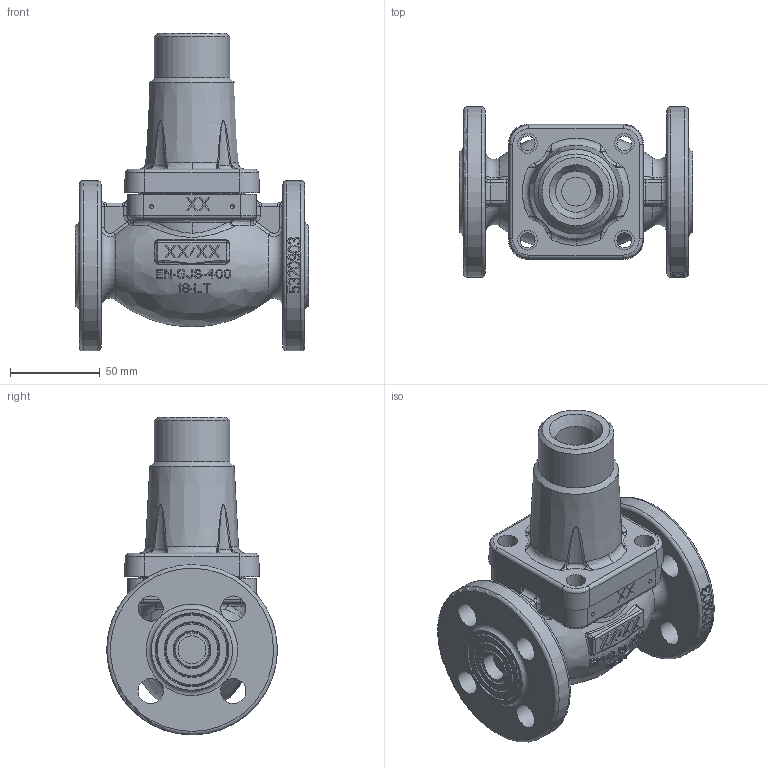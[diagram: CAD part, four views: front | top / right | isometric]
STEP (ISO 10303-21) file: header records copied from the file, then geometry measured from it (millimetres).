
FILE_DESCRIPTION(('TFLEX Exchange Step'),'2;1');
FILE_NAME('VFG-2R DN 15.stp', '2025-11-10T14:05:00+03:00',('RUCO3829'),('Unknown organisation'),'TFLEX Exchange 2024.6','T-FLEX CAD','Unknown authorisation');
FILE_SCHEMA( ('AUTOMOTIVE_DESIGN { 1 0 10303 214 1 1 1 1 }') );
Length unit declared in the file: millimetre
Products named in the file (1): 8400134-1
Bounding box: 130 x 95 x 177.3 mm (x, y, z)
Volume: 665701.4 mm3; surface area: 91493.4 mm2
Topology: 1 solids, 3 shells, 1355 faces, 3777 edges, 2470 vertices
Faces by surface type: plane 1067, bspline 115, cylinder 100, torus 39, cone 22, sphere 12
Full cylindrical faces by diameter (mm): 2.3 x4, 8.376 x4, 11 x4, 14.1 x8, 15.5 x2, 16 x1, 23 x1, 42 x1, 60 x1, 60.095 x1, 95 x2
Entity records: 58468 total; most frequent: CARTESIAN_POINT 27664, ORIENTED_EDGE 7488, DIRECTION 4765, EDGE_CURVE 3744, VERTEX_POINT 2466, B_SPLINE_CURVE_WITH_KNOTS 1754, AXIS2_PLACEMENT_3D 1639, VECTOR 1487
